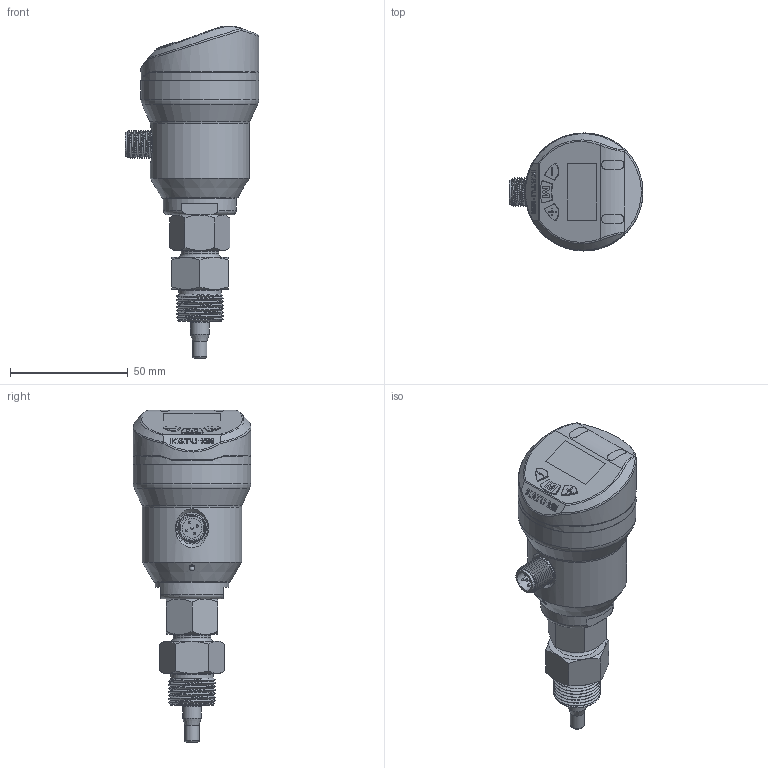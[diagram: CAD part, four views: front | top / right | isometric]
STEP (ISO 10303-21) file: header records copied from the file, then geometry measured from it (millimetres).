
FILE_DESCRIPTION( (''), '2;1');
FILE_NAME( 'QEKE_M18_L60_M18X1.5_M20X1.5_adapter.step', '2026-06-25T11:04:16+08:00', (''), (''), '', '', '');
FILE_SCHEMA (('AP203_CONFIGURATION_CONTROLLED_3D_DESIGN_OF_MECHANICAL_PARTS_AND_ASSEMBLIES_MIM_LF { 1 0 10303 403 2 1 2}'));
Length unit declared in the file: millimetre
Products named in the file (1): QEKE M18_L60_M18X1.5_M20X1.5_adapter
Bounding box: 56.7 x 50 x 140.7 mm (x, y, z)
Volume: 93531 mm3; surface area: 42309.7 mm2
Topology: 12 solids, 13 shells, 660 faces, 1630 edges, 1047 vertices
Faces by surface type: plane 338, cylinder 151, cone 71, bspline 55, torus 34, sphere 11
Full cylindrical faces by diameter (mm): 1 x10, 2.5 x1, 2.7 x5, 3.1 x1, 3.5 x2, 6 x2, 6.5 x1, 7 x1, 8 x3, 8.4 x1, 8.5 x1, 9.7 x1, 9.8 x1, 10.1 x1, 11 x1, 11.6 x1, 12 x2, 13.4 x1, 13.7 x1, 15.4 x1, 16 x1, 16.1 x1, 16.5 x6, 18 x1, 23 x3, 26.1 x5, 31 x1, 42 x1, 48 x1, 50 x3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
Entity records: 25753 total; most frequent: CARTESIAN_POINT 10467, ORIENTED_EDGE 2892, DIRECTION 2853, EDGE_CURVE 1446, AXIS2_PLACEMENT_3D 1049, VERTEX_POINT 977, EDGE_LOOP 831, LINE 755
